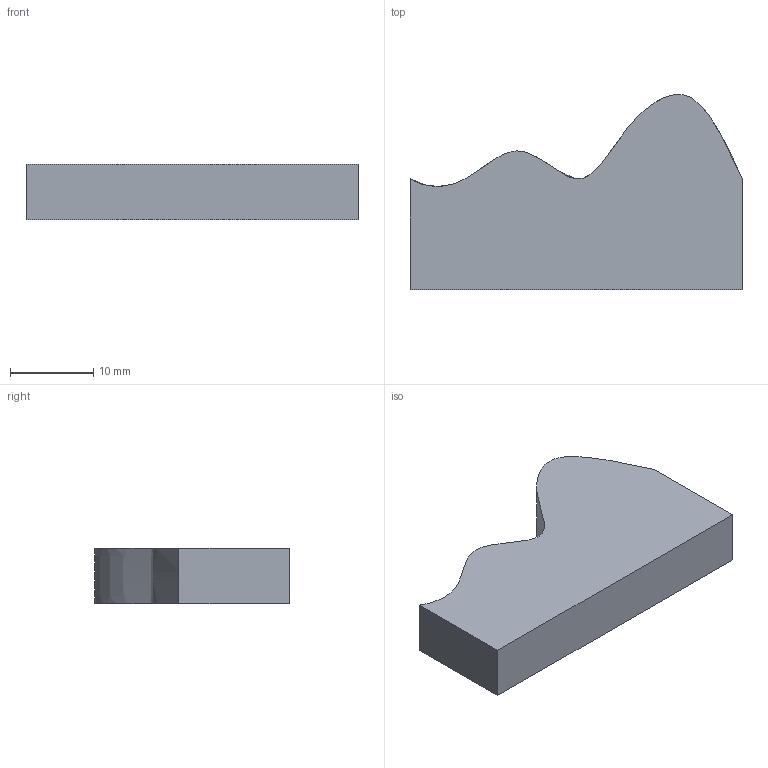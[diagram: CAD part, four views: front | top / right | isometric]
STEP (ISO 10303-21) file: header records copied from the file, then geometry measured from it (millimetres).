
FILE_DESCRIPTION(('Open CASCADE Model'),'2;1');
FILE_NAME('Open CASCADE Shape Model','2026-10-26T07:39:37',('Author'),( 'Open CASCADE'),'Open CASCADE STEP processor 7.9','Open CASCADE 7.9' ,'Unknown');
FILE_SCHEMA(('AUTOMOTIVE_DESIGN { 1 0 10303 214 1 1 1 1 }'));
Length unit declared in the file: millimetre
Products named in the file (1): Open CASCADE STEP translator 7.9 1
Bounding box: 40 x 23.49 x 6.67 mm (x, y, z)
Volume: 4486.1 mm3; surface area: 2136.8 mm2
Topology: 1 solids, 1 shells, 6 faces, 12 edges, 8 vertices
Faces by surface type: plane 5, extrusion 1
Entity records: 359 total; most frequent: CARTESIAN_POINT 96, DIRECTION 45, VECTOR 33, LINE 32, ORIENTED_EDGE 24, PCURVE 24, DEFINITIONAL_REPRESENTATION 24, EDGE_CURVE 12
